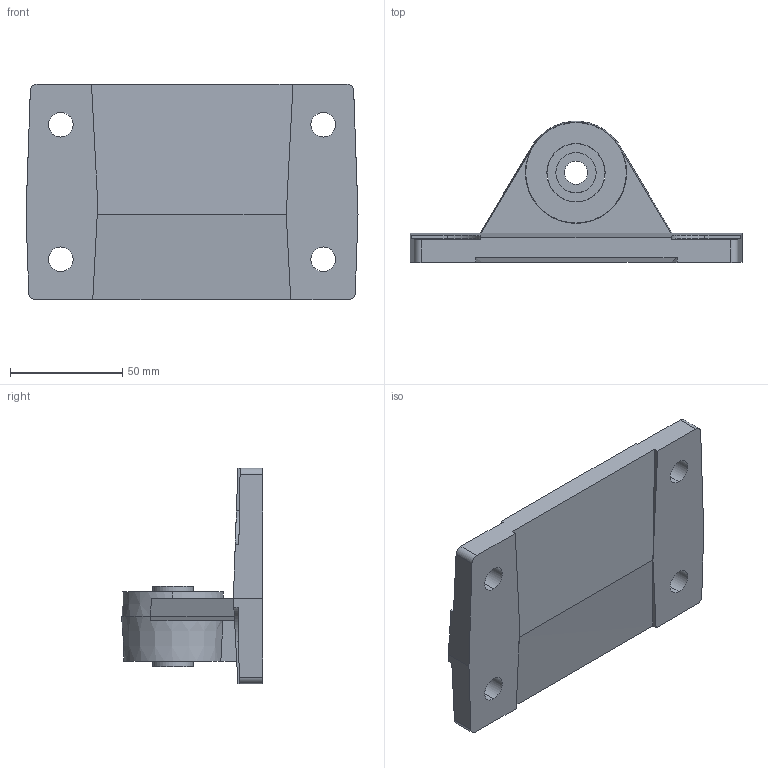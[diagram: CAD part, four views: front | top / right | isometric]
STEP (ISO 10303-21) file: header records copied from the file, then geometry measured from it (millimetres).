
FILE_DESCRIPTION((''),'2;1');
FILE_NAME('TAEN3_2','2015-06-07T',('Luca'),(''),'PRO/ENGINEER BY PARAMETRIC TECHNOLOGY CORPORATION, 2008230','PRO/ENGINEER BY PARAMETRIC TECHNOLOGY CORPORATION, 2008230','');
FILE_SCHEMA(('CONFIG_CONTROL_DESIGN'));
Length unit declared in the file: millimetre
Products named in the file (1): TAEN3_2
Bounding box: 148 x 62.91 x 96 mm (x, y, z)
Volume: 210561.4 mm3; surface area: 49021.9 mm2
Topology: 2 solids, 2 shells, 74 faces, 202 edges, 134 vertices
Faces by surface type: plane 43, cylinder 26, cone 5
Entity records: 2557 total; most frequent: CARTESIAN_POINT 610, ORIENTED_EDGE 404, DIRECTION 379, EDGE_CURVE 202, VERTEX_POINT 134, VECTOR 129, LINE 129, AXIS2_PLACEMENT_3D 125
